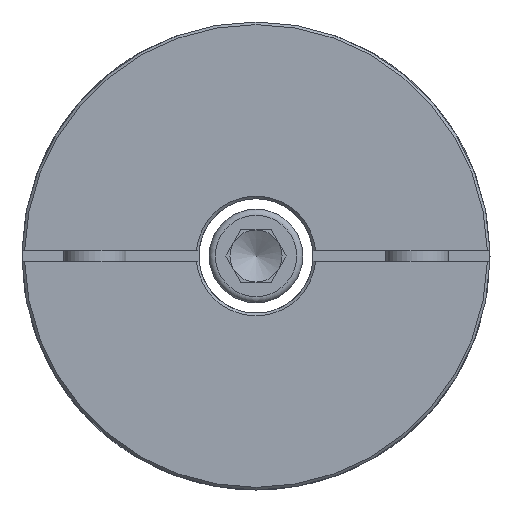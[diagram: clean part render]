
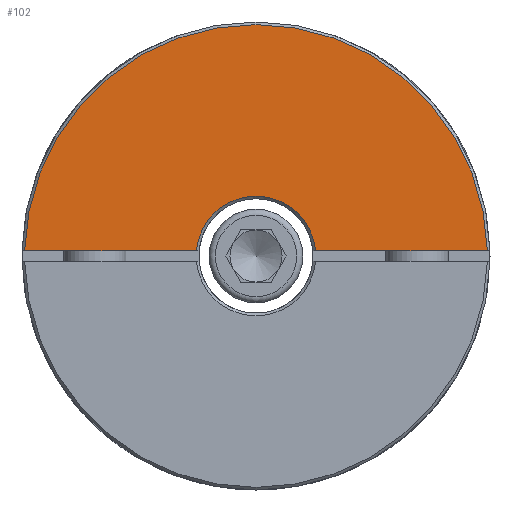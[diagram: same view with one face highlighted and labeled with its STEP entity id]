
A CAD part, left-side view. The second image highlights one B-rep face of the part: STEP entity #102.
In plain terms, the highlighted planar face has unit normal (-1, 0, 0) as drawn and (1, 0, 0) by its records, which use the part's own axes.
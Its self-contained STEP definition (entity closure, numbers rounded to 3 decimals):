
#102 = ADVANCED_FACE( '', ( #206 ), #207, .T. );
#206 = FACE_OUTER_BOUND( '', #340, .T. );
#207 = PLANE( '', #341 );
#340 = EDGE_LOOP( '', ( #557, #558, #559, #560 ) );
#341 = AXIS2_PLACEMENT_3D( '', #561, #562, #563 );
#557 = ORIENTED_EDGE( '', *, *, #901, .F. );
#558 = ORIENTED_EDGE( '', *, *, #905, .T. );
#559 = ORIENTED_EDGE( '', *, *, #906, .F. );
#560 = ORIENTED_EDGE( '', *, *, #875, .T. );
#561 = CARTESIAN_POINT( '', ( 41., 0., 45. ) );
#562 = DIRECTION( '', ( 1., 0., 0. ) );
#563 = DIRECTION( '', ( 0., 0., -1. ) );
#875 = EDGE_CURVE( '', #1120, #1124, #1126, .F. );
#901 = EDGE_CURVE( '', #1168, #1124, #1170, .T. );
#905 = EDGE_CURVE( '', #1168, #1175, #1176, .T. );
#906 = EDGE_CURVE( '', #1120, #1175, #1177, .T. );
#1120 = VERTEX_POINT( '', #1574 );
#1124 = VERTEX_POINT( '', #1581 );
#1126 = CIRCLE( '', #1586, 11.5 );
#1168 = VERTEX_POINT( '', #1793 );
#1170 = LINE( '', #1798, #1799 );
#1175 = VERTEX_POINT( '', #1806 );
#1176 = CIRCLE( '', #1807, 44.5 );
#1177 = LINE( '', #1808, #1809 );
#1574 = CARTESIAN_POINT( '', ( 41., -11.456, 1. ) );
#1581 = CARTESIAN_POINT( '', ( 41., 11.456, 1. ) );
#1586 = AXIS2_PLACEMENT_3D( '', #2157, #2158, #2159 );
#1793 = CARTESIAN_POINT( '', ( 41., 44.489, 1. ) );
#1798 = CARTESIAN_POINT( '', ( 41., 0., 1. ) );
#1799 = VECTOR( '', #2193, 1000. );
#1806 = CARTESIAN_POINT( '', ( 41., -44.489, 1. ) );
#1807 = AXIS2_PLACEMENT_3D( '', #2196, #2197, #2198 );
#1808 = CARTESIAN_POINT( '', ( 41., 0., 1. ) );
#1809 = VECTOR( '', #2199, 1000. );
#2157 = CARTESIAN_POINT( '', ( 41., 0., 0. ) );
#2158 = DIRECTION( '', ( 1., 0., 0. ) );
#2159 = DIRECTION( '', ( 0., 0., -1. ) );
#2193 = DIRECTION( '', ( 0., -1., 0. ) );
#2196 = CARTESIAN_POINT( '', ( 41., 0., 0. ) );
#2197 = DIRECTION( '', ( 1., 0., 0. ) );
#2198 = DIRECTION( '', ( 0., 0., -1. ) );
#2199 = DIRECTION( '', ( 0., -1., 0. ) );
